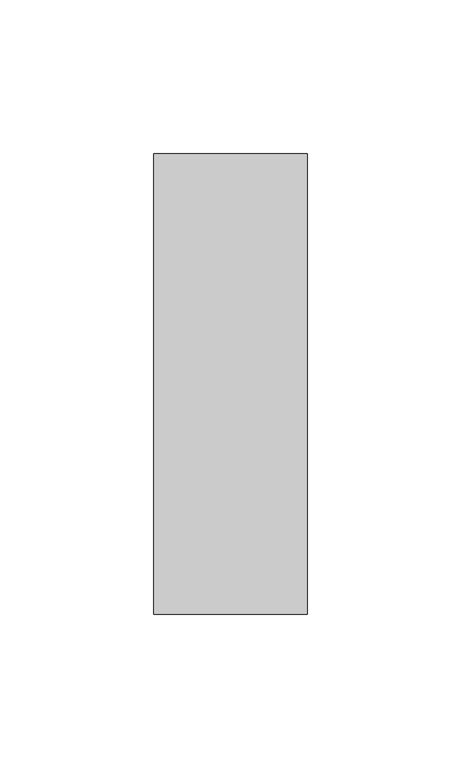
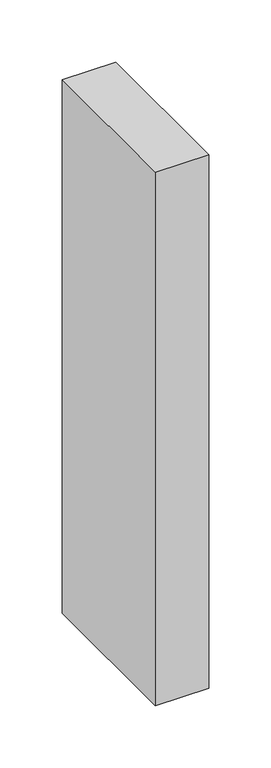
"""IFC4 building model written with IfcOpenShell, lengths in millimetres: member geometry, Прямоугольный импост : 50х150мм."""

from ifc_helpers import new_model, si_unit, frame, origin, place, context, project, spatial, polyline, outline, extrude, source, transform, mapped, element, save


def member_8a69f4a4(model_context):
    return source(origin(), model_context, "Body", "SweptSolid", [
        extrude(outline(polyline([(25.0, 75.0), (25.0, -75.0), (-25.0, -75.0), (-25.0, 75.0), (25.0, 75.0)])), frame((0.0, 0.0, -525.0), z_axis=(0.0, 0.0, 1.0), x_axis=(1.0, 0.0, 0.0)), (0.0, 0.0, 1.0), 525.0),
    ])


if __name__ == "__main__":
    model = new_model("IFC4")
    model_context = context("Model", 3, world=origin())
    ifc_project = project(units=[si_unit("LENGTHUNIT", "METRE", prefix="MILLI")], contexts=[model_context])
    site = spatial("IfcSite", under=ifc_project)
    building = spatial("IfcBuilding", under=site)
    placement = place(None, origin())
    member_shape = member_8a69f4a4(model_context)
    element("IfcMember", 1, ObjectType="Прямоугольный импост : 50х150мм", at=placement, inside=building, context=model_context, shape_type="MappedRepresentation", body=[
        mapped(member_shape, transform((0.0, 0.0, 0.0), x_axis=(1.0, 0.0, 0.0), y_axis=(0.0, 1.0, 0.0), z_axis=(0.0, 0.0, 1.0))),
    ])
    save(model, "model.ifc")
